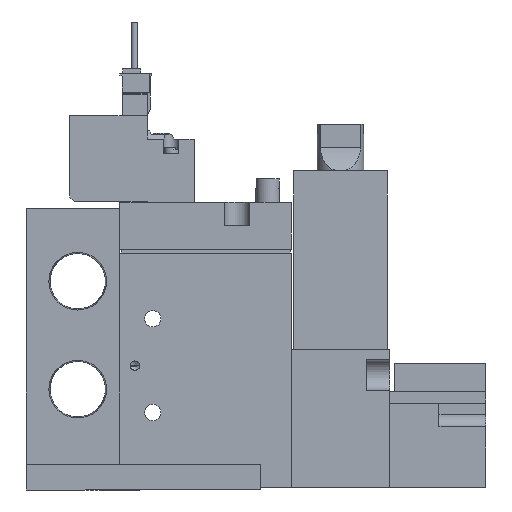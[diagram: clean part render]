
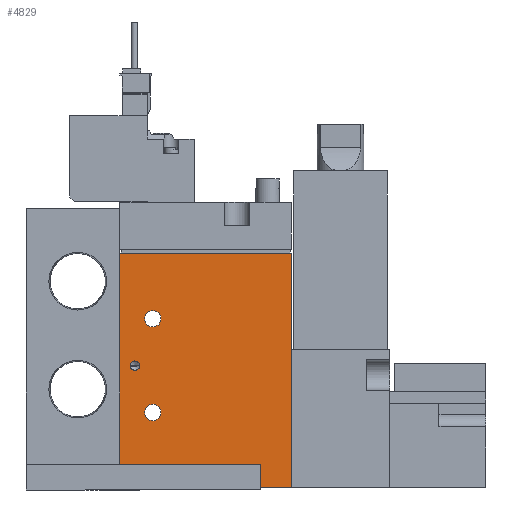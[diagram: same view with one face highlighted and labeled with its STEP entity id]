
A CAD part, left-side view. The second image highlights one B-rep face of the part: STEP entity #4829.
In plain terms, the highlighted planar face has unit normal (-1, 0, 0) as drawn and (1, 0, 0) by its records, which use the part's own axes.
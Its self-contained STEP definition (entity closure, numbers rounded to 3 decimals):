
#4829=ADVANCED_FACE('',(#7457,#7458,#7459,#7460),#7461,.F.);
#7457=FACE_BOUND('',#12199,.T.);
#7458=FACE_BOUND('',#12200,.T.);
#7459=FACE_BOUND('',#12201,.T.);
#7460=FACE_OUTER_BOUND('',#12202,.T.);
#7461=PLANE('',#12203);
#12199=EDGE_LOOP('',(#18845));
#12200=EDGE_LOOP('',(#18846));
#12201=EDGE_LOOP('',(#18847));
#12202=EDGE_LOOP('',(#18848,#18849,#18850,#18851));
#12203=AXIS2_PLACEMENT_3D('',#18852,#18853,#18854);
#18845=ORIENTED_EDGE('',*,*,#33319,.F.);
#18846=ORIENTED_EDGE('',*,*,#33320,.T.);
#18847=ORIENTED_EDGE('',*,*,#33318,.T.);
#18848=ORIENTED_EDGE('',*,*,#33321,.T.);
#18849=ORIENTED_EDGE('',*,*,#33322,.F.);
#18850=ORIENTED_EDGE('',*,*,#33323,.F.);
#18851=ORIENTED_EDGE('',*,*,#33324,.T.);
#18852=CARTESIAN_POINT('',(8.5,-19.444,50.0));
#18853=DIRECTION('',(-1.0,0.0,0.0));
#18854=DIRECTION('',(0.0,0.0,1.0));
#33318=EDGE_CURVE('',#39015,#39015,#39016,.T.);
#33319=EDGE_CURVE('',#39017,#39017,#39018,.T.);
#33320=EDGE_CURVE('',#39019,#39019,#39020,.T.);
#33321=EDGE_CURVE('',#39021,#39022,#39023,.T.);
#33322=EDGE_CURVE('',#39024,#39022,#39025,.T.);
#33323=EDGE_CURVE('',#39026,#39024,#39027,.T.);
#33324=EDGE_CURVE('',#39026,#39021,#39028,.T.);
#39015=VERTEX_POINT('',#48624);
#39016=CIRCLE('',#48625,1.75);
#39017=VERTEX_POINT('',#48626);
#39018=CIRCLE('',#48627,1.0);
#39019=VERTEX_POINT('',#48628);
#39020=CIRCLE('',#48629,1.75);
#39021=VERTEX_POINT('',#48630);
#39022=VERTEX_POINT('',#48631);
#39023=LINE('',#48632,#48633);
#39024=VERTEX_POINT('',#48634);
#39025=LINE('',#48635,#48636);
#39026=VERTEX_POINT('',#48637);
#39027=LINE('',#48638,#48639);
#39028=LINE('',#48640,#48641);
#48624=CARTESIAN_POINT('',(8.5,-10.694,16.0));
#48625=AXIS2_PLACEMENT_3D('',#60619,#60620,#60621);
#48626=CARTESIAN_POINT('',(8.5,-17.244,26.0));
#48627=AXIS2_PLACEMENT_3D('',#60622,#60623,#60624);
#48628=CARTESIAN_POINT('',(8.5,-10.694,36.0));
#48629=AXIS2_PLACEMENT_3D('',#60625,#60626,#60627);
#48630=CARTESIAN_POINT('',(8.5,-19.444,0.0));
#48631=CARTESIAN_POINT('',(8.5,17.056,0.0));
#48632=CARTESIAN_POINT('',(8.5,-19.444,0.0));
#48633=VECTOR('',#60628,1.0);
#48634=CARTESIAN_POINT('',(8.5,17.056,50.0));
#48635=CARTESIAN_POINT('',(8.5,17.056,50.0));
#48636=VECTOR('',#60629,1.0);
#48637=CARTESIAN_POINT('',(8.5,-19.444,50.0));
#48638=CARTESIAN_POINT('',(8.5,-19.444,50.0));
#48639=VECTOR('',#60630,1.0);
#48640=CARTESIAN_POINT('',(8.5,-19.444,50.0));
#48641=VECTOR('',#60631,1.0);
#60619=CARTESIAN_POINT('',(8.5,-12.444,16.0));
#60620=DIRECTION('',(-1.0,0.0,0.0));
#60621=DIRECTION('',(0.0,1.0,0.0));
#60622=CARTESIAN_POINT('',(8.5,-16.244,26.0));
#60623=DIRECTION('',(1.0,0.,0.0));
#60624=DIRECTION('',(0.,-1.0,0.0));
#60625=CARTESIAN_POINT('',(8.5,-12.444,36.0));
#60626=DIRECTION('',(-1.0,0.0,0.0));
#60627=DIRECTION('',(0.0,1.0,0.0));
#60628=DIRECTION('',(0.0,1.0,0.0));
#60629=DIRECTION('',(0.0,0.0,-1.0));
#60630=DIRECTION('',(0.0,1.0,0.0));
#60631=DIRECTION('',(0.0,0.0,-1.0));
